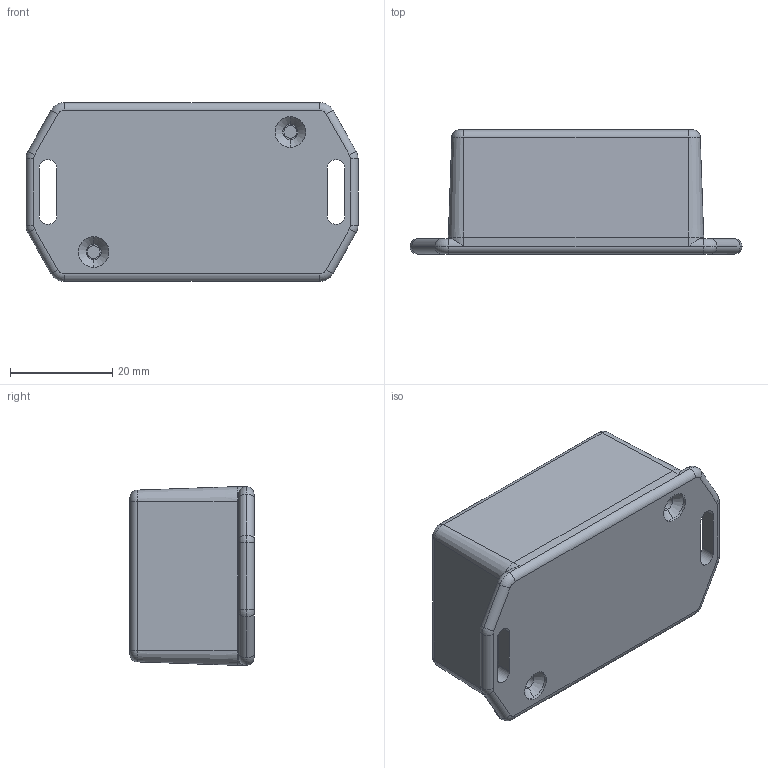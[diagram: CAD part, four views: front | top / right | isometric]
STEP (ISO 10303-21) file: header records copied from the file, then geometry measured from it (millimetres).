
FILE_DESCRIPTION (( 'STEP AP203' ), '1' );
FILE_NAME ('DM-006.STEP', '2020-07-08T12:02:53', ( '' ), ( '' ), 'SwSTEP 2.0', 'SolidWorks 2020', '' );
FILE_SCHEMA (( 'CONFIG_CONTROL_DESIGN' ));
Length unit declared in the file: millimetre
Products named in the file (3): HH-006; DM-003-P-1-11136_kulp; DM-006
Assembly tree (2 placements, depth 2):
  DM-006
    DM-003-P-1-11136_kulp
    HH-006
Bounding box: 65 x 24.3 x 35 mm (x, y, z)
Volume: 13978.5 mm3; surface area: 16446.1 mm2
Topology: 2 solids, 2 shells, 162 faces, 393 edges, 250 vertices
Faces by surface type: plane 59, cylinder 44, cone 39, torus 20
Entity records: 5132 total; most frequent: DIRECTION 905, CARTESIAN_POINT 858, ORIENTED_EDGE 786, EDGE_CURVE 393, AXIS2_PLACEMENT_3D 349, VERTEX_POINT 250, LINE 207, VECTOR 207
